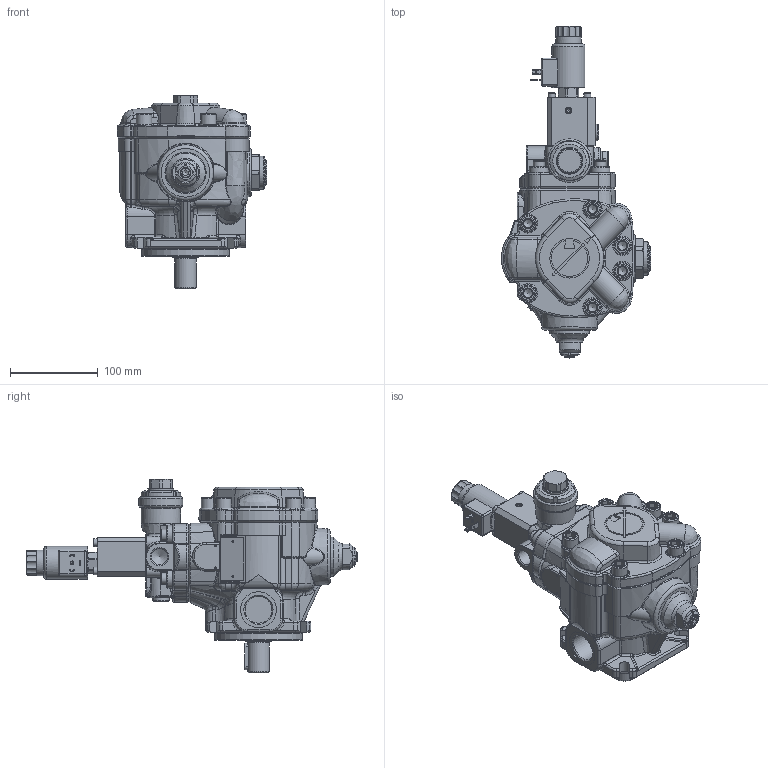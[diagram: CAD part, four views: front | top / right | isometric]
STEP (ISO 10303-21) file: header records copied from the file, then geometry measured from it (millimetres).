
FILE_DESCRIPTION(/* description */ (''),/* implementation_level */ '2;1');
FILE_NAME(/* name */ 'W:\Tecnico\Archivio\Berarma\Dimensioni Pompe\3D Export\Montaggio 3D semplificato\PLP-PHP 1\PHP 1 PCS005.stp',/* time_stamp */ '2018-10-09T15:01:53+02:00',/* author */ ('marcop'),/* organization */ (''),/* preprocessor_version */ 'ST-DEVELOPER v17',/* originating_system */ 'Autodesk Inventor 2018',/* authorisation */ '');
FILE_SCHEMA (('AUTOMOTIVE_DESIGN { 1 0 10303 214 3 1 1 }'));
Length unit declared in the file: millimetre
Products named in the file (1): PLP-PHP 1_Shrinkwrap_1
Bounding box: 170.45 x 379.25 x 221 mm (x, y, z)
Volume: 2571652.9 mm3; surface area: 291227.3 mm2
Topology: 2 solids, 2 shells, 2161 faces, 5610 edges, 3503 vertices
Faces by surface type: plane 813, cylinder 550, bspline 362, torus 229, cone 180, sphere 27
Full cylindrical faces by diameter (mm): 1.6 x3, 1.7 x4, 2.5 x3, 3.242 x1, 4.3 x1, 8 x1, 8.5 x4, 10 x1, 12 x2, 13 x4, 14 x1, 15 x1, 15.5 x1, 16.789 x1, 17.805 x1, 17.84 x1, 18 x7, 18.631 x1, 18.999 x2, 19 x4, 19.2 x1, 20 x2, 22 x1, 22.857 x1, 24.5 x2, 25 x2, 28 x1, 28.376 x1, 29.21 x1, 30 x7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
Entity records: 80277 total; most frequent: CARTESIAN_POINT 27758, ORIENTED_EDGE 11122, DIRECTION 9867, EDGE_CURVE 5561, AXIS2_PLACEMENT_3D 3832, VERTEX_POINT 3503, EDGE_LOOP 2281, LINE 2203
